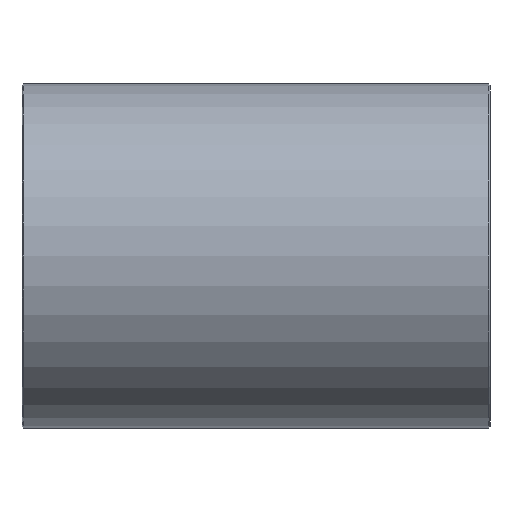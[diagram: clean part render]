
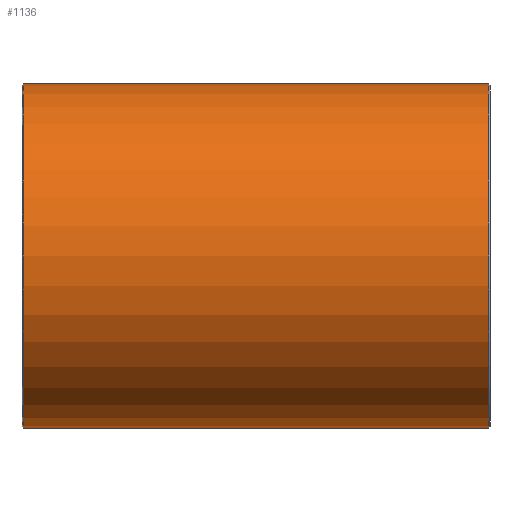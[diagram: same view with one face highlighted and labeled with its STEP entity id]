
A CAD part, front view. The second image highlights one B-rep face of the part: STEP entity #1136.
In plain terms, the highlighted cylindrical face has radius 270 mm (diameter 540 mm), a full revolution.
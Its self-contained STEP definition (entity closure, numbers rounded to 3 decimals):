
#17=B_SPLINE_CURVE_WITH_KNOTS('',3,(#1857,#1858,#1859,#1860,#1861,#1862,
#1863,#1864,#1865,#1866,#1867,#1868,#1869,#1870,#1871,#1872,#1873,#1874),
 .UNSPECIFIED.,.F.,.F.,(4,2,2,2,2,2,2,2,4),(1.959,2.449,
2.939,3.428,3.918,4.408,4.898,
5.388,5.877),.UNSPECIFIED.);
#18=B_SPLINE_CURVE_WITH_KNOTS('',3,(#1875,#1876,#1877,#1878,#1879,#1880,
#1881,#1882,#1883,#1884,#1885,#1886,#1887,#1888,#1889,#1890,#1891,#1892,
#1893),.UNSPECIFIED.,.F.,.F.,(4,2,2,2,3,2,2,2,4),(5.877,6.367,
6.857,7.347,7.836,8.326,8.816,
9.306,9.795),.UNSPECIFIED.);
#42=FACE_BOUND('',#214,.T.);
#73=CYLINDRICAL_SURFACE('',#1274,270.);
#121=FACE_OUTER_BOUND('',#213,.T.);
#213=EDGE_LOOP('',(#919,#920,#921,#922,#923,#924));
#214=EDGE_LOOP('',(#925,#926));
#299=LINE('',#1986,#377);
#377=VECTOR('',#1545,270.);
#460=CIRCLE('',#1271,270.);
#461=CIRCLE('',#1272,270.);
#463=CIRCLE('',#1275,270.);
#464=CIRCLE('',#1276,270.);
#552=VERTEX_POINT('',#1855);
#553=VERTEX_POINT('',#1856);
#558=VERTEX_POINT('',#1974);
#559=VERTEX_POINT('',#1975);
#561=VERTEX_POINT('',#1982);
#562=VERTEX_POINT('',#1983);
#668=EDGE_CURVE('',#552,#553,#17,.T.);
#669=EDGE_CURVE('',#553,#552,#18,.T.);
#692=EDGE_CURVE('',#558,#559,#460,.T.);
#693=EDGE_CURVE('',#559,#558,#461,.T.);
#696=EDGE_CURVE('',#561,#562,#463,.T.);
#697=EDGE_CURVE('',#562,#561,#464,.T.);
#698=EDGE_CURVE('',#562,#559,#299,.T.);
#919=ORIENTED_EDGE('',*,*,#696,.F.);
#920=ORIENTED_EDGE('',*,*,#697,.F.);
#921=ORIENTED_EDGE('',*,*,#698,.T.);
#922=ORIENTED_EDGE('',*,*,#692,.F.);
#923=ORIENTED_EDGE('',*,*,#693,.F.);
#924=ORIENTED_EDGE('',*,*,#698,.F.);
#925=ORIENTED_EDGE('',*,*,#668,.T.);
#926=ORIENTED_EDGE('',*,*,#669,.T.);
#1136=ADVANCED_FACE('',(#121,#42),#73,.T.);
#1271=AXIS2_PLACEMENT_3D('',#1976,#1532,#1533);
#1272=AXIS2_PLACEMENT_3D('',#1977,#1534,#1535);
#1274=AXIS2_PLACEMENT_3D('',#1981,#1539,#1540);
#1275=AXIS2_PLACEMENT_3D('',#1984,#1541,#1542);
#1276=AXIS2_PLACEMENT_3D('',#1985,#1543,#1544);
#1532=DIRECTION('center_axis',(-1.,0.,0.));
#1533=DIRECTION('ref_axis',(0.,-1.,0.));
#1534=DIRECTION('center_axis',(-1.,0.,0.));
#1535=DIRECTION('ref_axis',(0.,-1.,0.));
#1539=DIRECTION('center_axis',(1.,0.,0.));
#1540=DIRECTION('ref_axis',(0.,1.,0.));
#1541=DIRECTION('center_axis',(1.,0.,0.));
#1542=DIRECTION('ref_axis',(0.,-1.,0.));
#1543=DIRECTION('center_axis',(1.,0.,0.));
#1544=DIRECTION('ref_axis',(0.,-1.,0.));
#1545=DIRECTION('',(-1.,0.,0.));
#1855=CARTESIAN_POINT('',(297.,270.,0.));
#1856=CARTESIAN_POINT('',(323.,270.,0.));
#1857=CARTESIAN_POINT('Ctrl Pts',(297.,270.,0.));
#1858=CARTESIAN_POINT('Ctrl Pts',(297.,270.,-1.633));
#1859=CARTESIAN_POINT('Ctrl Pts',(297.326,269.984,-3.374));
#1860=CARTESIAN_POINT('Ctrl Pts',(298.653,269.925,-6.577));
#1861=CARTESIAN_POINT('Ctrl Pts',(299.654,269.883,-8.038));
#1862=CARTESIAN_POINT('Ctrl Pts',(301.962,269.804,-10.346));
#1863=CARTESIAN_POINT('Ctrl Pts',(303.423,269.762,-11.347));
#1864=CARTESIAN_POINT('Ctrl Pts',(306.626,269.703,-12.674));
#1865=CARTESIAN_POINT('Ctrl Pts',(308.367,269.687,-13.));
#1866=CARTESIAN_POINT('Ctrl Pts',(311.633,269.687,-13.));
#1867=CARTESIAN_POINT('Ctrl Pts',(313.374,269.703,-12.674));
#1868=CARTESIAN_POINT('Ctrl Pts',(316.577,269.762,-11.347));
#1869=CARTESIAN_POINT('Ctrl Pts',(318.038,269.804,-10.346));
#1870=CARTESIAN_POINT('Ctrl Pts',(320.346,269.883,-8.038));
#1871=CARTESIAN_POINT('Ctrl Pts',(321.347,269.925,-6.577));
#1872=CARTESIAN_POINT('Ctrl Pts',(322.674,269.984,-3.374));
#1873=CARTESIAN_POINT('Ctrl Pts',(323.,270.,-1.633));
#1874=CARTESIAN_POINT('Ctrl Pts',(323.,270.,0.));
#1875=CARTESIAN_POINT('Ctrl Pts',(323.,270.,0.));
#1876=CARTESIAN_POINT('Ctrl Pts',(323.,270.,1.633));
#1877=CARTESIAN_POINT('Ctrl Pts',(322.674,269.984,3.374));
#1878=CARTESIAN_POINT('Ctrl Pts',(321.347,269.925,6.577));
#1879=CARTESIAN_POINT('Ctrl Pts',(320.346,269.883,8.038));
#1880=CARTESIAN_POINT('Ctrl Pts',(318.038,269.804,10.346));
#1881=CARTESIAN_POINT('Ctrl Pts',(316.577,269.762,11.347));
#1882=CARTESIAN_POINT('Ctrl Pts',(313.374,269.703,12.674));
#1883=CARTESIAN_POINT('Ctrl Pts',(311.633,269.687,13.));
#1884=CARTESIAN_POINT('Ctrl Pts',(310.,269.687,13.));
#1885=CARTESIAN_POINT('Ctrl Pts',(308.367,269.687,13.));
#1886=CARTESIAN_POINT('Ctrl Pts',(306.626,269.703,12.674));
#1887=CARTESIAN_POINT('Ctrl Pts',(303.423,269.762,11.347));
#1888=CARTESIAN_POINT('Ctrl Pts',(301.962,269.804,10.346));
#1889=CARTESIAN_POINT('Ctrl Pts',(299.654,269.883,8.038));
#1890=CARTESIAN_POINT('Ctrl Pts',(298.653,269.925,6.577));
#1891=CARTESIAN_POINT('Ctrl Pts',(297.326,269.984,3.374));
#1892=CARTESIAN_POINT('Ctrl Pts',(297.,270.,1.633));
#1893=CARTESIAN_POINT('Ctrl Pts',(297.,270.,0.));
#1974=CARTESIAN_POINT('',(2.,270.,0.));
#1975=CARTESIAN_POINT('',(2.,-270.,0.));
#1976=CARTESIAN_POINT('Origin',(2.,0.,0.));
#1977=CARTESIAN_POINT('Origin',(2.,0.,0.));
#1981=CARTESIAN_POINT('Origin',(367.,0.,0.));
#1982=CARTESIAN_POINT('',(732.,270.,0.));
#1983=CARTESIAN_POINT('',(732.,-270.,0.));
#1984=CARTESIAN_POINT('Origin',(732.,0.,0.));
#1985=CARTESIAN_POINT('Origin',(732.,0.,0.));
#1986=CARTESIAN_POINT('',(367.,-270.,0.));
